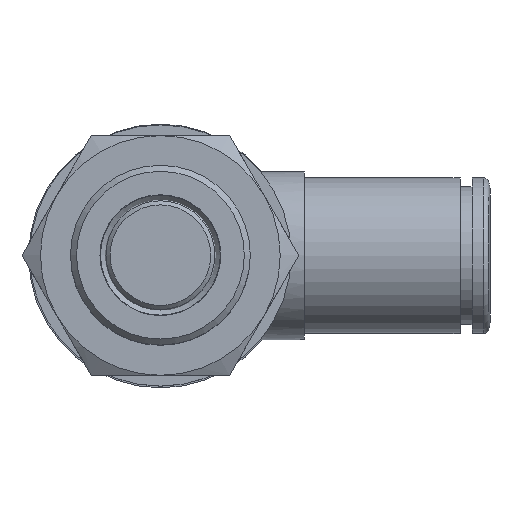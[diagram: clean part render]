
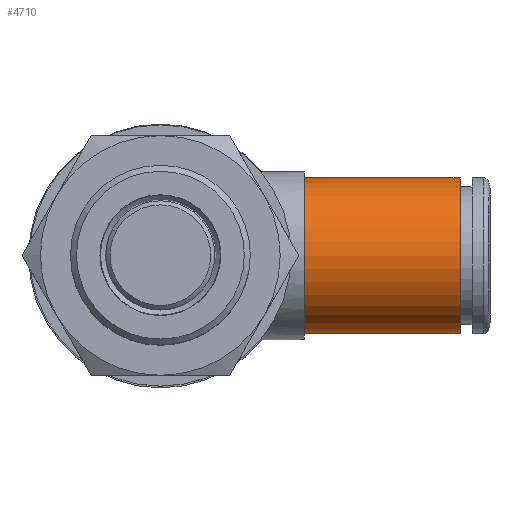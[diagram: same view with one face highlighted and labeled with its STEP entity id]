
A CAD part, top view. The second image highlights one B-rep face of the part: STEP entity #4710.
In plain terms, the highlighted cylindrical face has radius 6.5 mm (diameter 13 mm), a full revolution.
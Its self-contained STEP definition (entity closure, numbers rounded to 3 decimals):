
#4710=ADVANCED_FACE('', (#4720,#4730), #4740, .T.);
#15490=AXIS2_PLACEMENT_3D('Ax2Pl3d', #15500, #15510, #15520);
#15530=AXIS2_PLACEMENT_3D('Ax2Pl3d', #15540, #15550, #15560);
#15570=AXIS2_PLACEMENT_3D('Ax2Pl3d', #15580, #15590, #15600);
#15500=CARTESIAN_POINT('HicPkt', (40.294,16.069,
24.274));
#32350=CARTESIAN_POINT('', (40.294,16.069,17.774));
#15540=CARTESIAN_POINT('HicPkt', (53.294,16.069,
24.274));
#15580=CARTESIAN_POINT('HicPkt', (53.294,16.069,
24.274));
#32360=CARTESIAN_POINT('', (53.294,16.069,17.774));
#33620=CIRCLE('Circle', #15490, 6.5);
#33630=CIRCLE('Circle', #15570, 6.5);
#4740=CYLINDRICAL_SURFACE('Zyl', #15530, 6.5);
#15510=DIRECTION('Axis', (-1.,0.,0.)
);
#15520=DIRECTION('RefDirection', (0.,
0.,-1.));
#15550=DIRECTION('Axis', (-1.,0.,0.)
);
#15560=DIRECTION('RefDirection', (0.,
0.,-1.));
#15590=DIRECTION('Axis', (-1.,0.,0.)
);
#15600=DIRECTION('RefDirection', (0.,
0.,-1.));
#42610=EDGE_CURVE('', #42620, #42620, #33620, .T.);
#42630=EDGE_CURVE('', #42640, #42640, #33630, .T.);
#47990=EDGE_LOOP('Edge_loop', (#48000));
#48010=EDGE_LOOP('Edge_loop', (#48020));
#4730=FACE_BOUND('', #48010, .T.);
#4720=FACE_OUTER_BOUND('Face_outer_bound', #47990, .T.);
#48000=ORIENTED_EDGE('', *, *, #42610, .F.);
#48020=ORIENTED_EDGE('', *, *, #42630, .T.);
#42620=VERTEX_POINT('', #32350);
#42640=VERTEX_POINT('', #32360);
